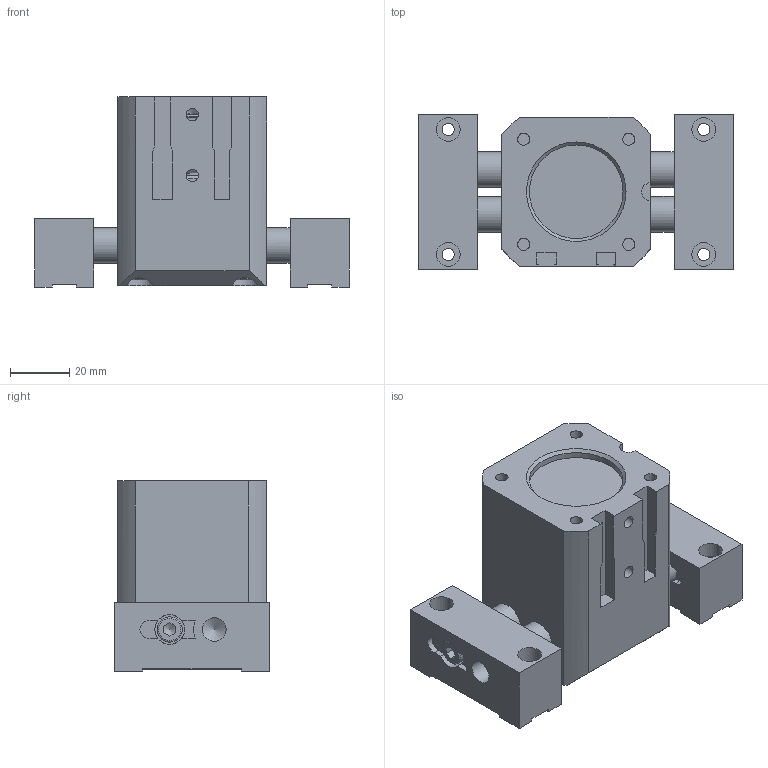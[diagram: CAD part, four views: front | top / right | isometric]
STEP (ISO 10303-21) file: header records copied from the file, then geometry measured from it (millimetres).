
FILE_DESCRIPTION((''),'2;1');
FILE_NAME('T:\CAD\Standard\Daten\3D-Datenbank\GP\4 - 3D-CAD-Daten GP 050-125\GP063\step-Daten\G-GP063-l2-GÖ+UB open.stp','2013-11-07T15:23:08',('Dirk'),(''),'Autodesk Inventor 2011','Autodesk Inventor 2011','');
FILE_SCHEMA(('AUTOMOTIVE_DESIGN { 1 0 10303 214 1 1 1 1 }'));
Length unit declared in the file: millimetre
Products named in the file (1): Bauteil97
Bounding box: 106 x 52 x 64 mm (x, y, z)
Volume: 171827 mm3; surface area: 59145.3 mm2
Topology: 1 solids, 20 shells, 396 faces, 990 edges, 645 vertices
Faces by surface type: plane 232, cylinder 105, cone 36, torus 22, bspline 1
Full cylindrical faces by diameter (mm): 2.459 x2, 4.134 x13, 5 x2, 5.5 x2, 6.647 x1, 8 x8, 8.5 x7, 10 x8, 12 x6, 14 x7, 16 x2, 18.6 x2, 21.1 x2, 25 x1, 28.9 x2, 31.5 x1, 33 x1, 33.6 x2, 35.5 x2, 40 x5
Entity records: 12506 total; most frequent: CARTESIAN_POINT 3364, DIRECTION 1802, ORIENTED_EDGE 1598, EDGE_CURVE 799, AXIS2_PLACEMENT_3D 692, EDGE_LOOP 604, VERTEX_POINT 582, VECTOR 418
